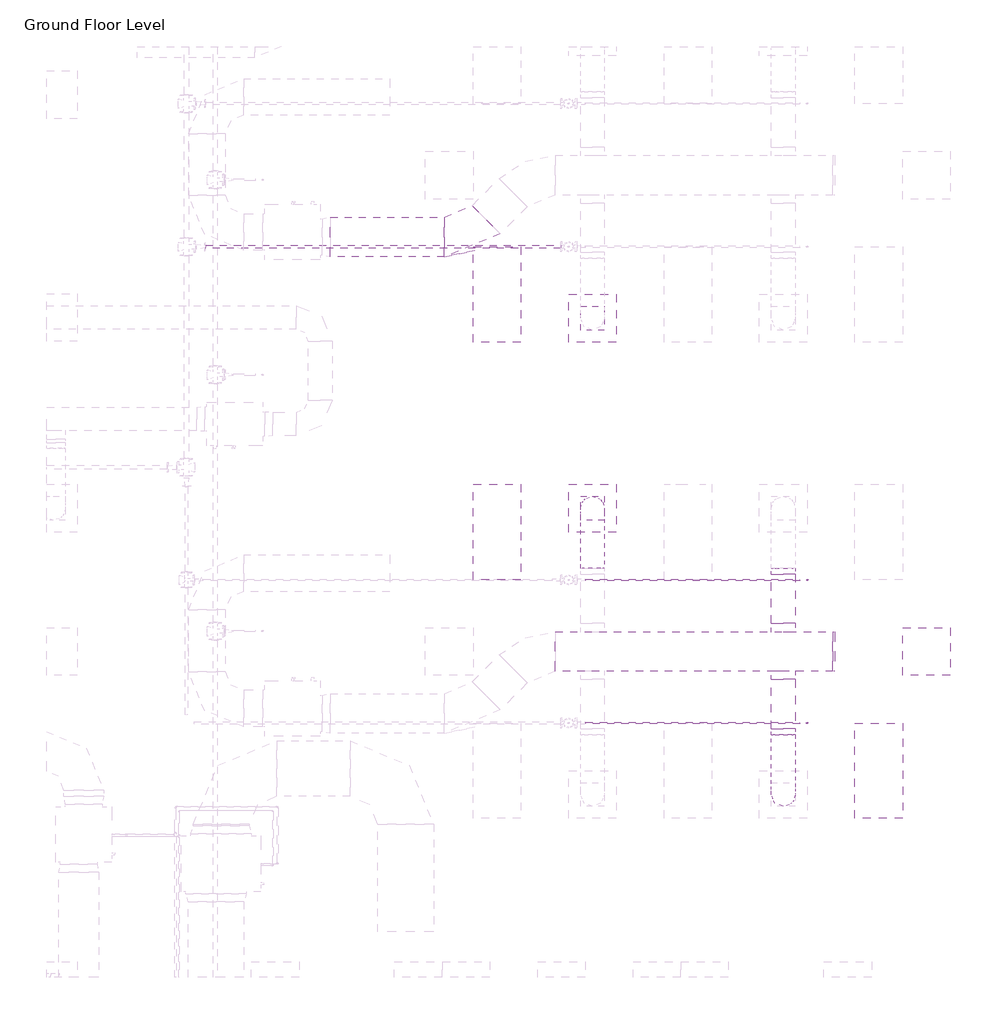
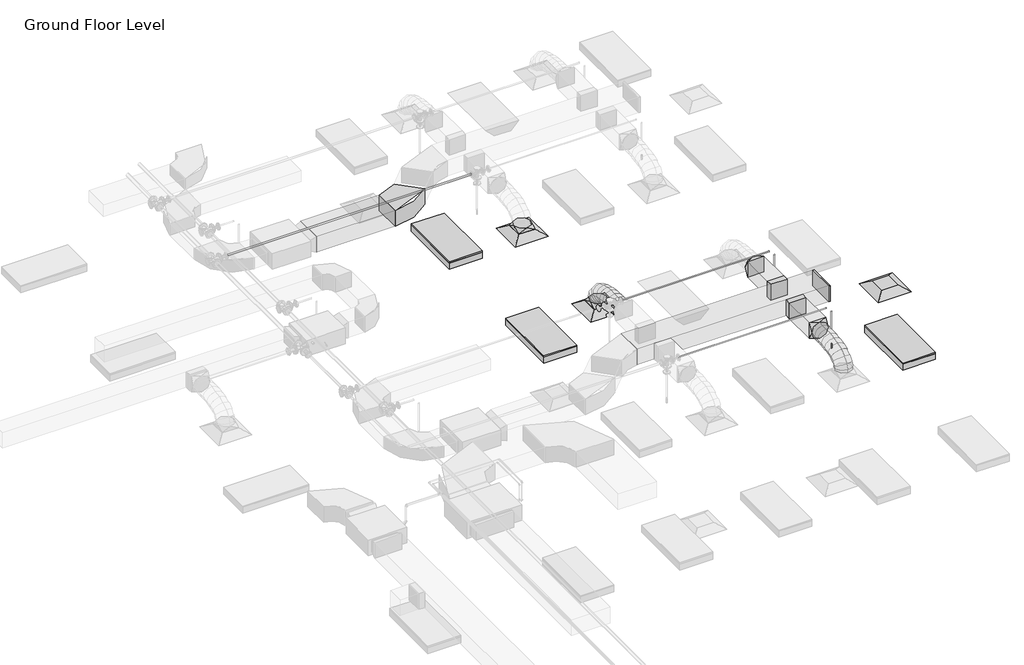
# One storey, part 36 of 66: 8 duct fittings, 6 duct segments, 5 pipe segments, 3 air terminals, 3 light fixtures, 2 fire suppression terminals.
"""IFC4 building model written with IfcOpenShell, lengths in millimetres."""

from ifc_helpers import new_model, si_unit, point, frame, frame_2d, origin, place, context, project, spatial, polyline, circle_curve, ellipse_curve, trimmed, segment, composite_curve, outline, extrude, transform, mapped, element, save
from ifc_brep_helpers import plane_surface, cylinder_surface, advanced_brep
from components import m_return_diffuser_600_x_600_face_300_x_300_connection_ff221211, m_rectangular_elbow_radius_1_5_w_acc56c25, m_rectangular_endcap_standard_72d4d00d, m_rectangular_takeoff_standard_cb0ccb98, m_rectangular_takeoff_standard_2be5eba1, m_rectangular_to_round_transition_angle_45_degree_641efff0, m_sprinkler_dry_pendent_hosted_15_mm_dry_pendent_9bda8e11, m_troffer_light_parabolic_rectangular1_0600x1200mm_4_lamp_86473d4a

model = new_model("IFC4")

# Units and contexts
model_context = context("Model", 3, world=origin())
ifc_project = project(units=[si_unit("LENGTHUNIT", "METRE", prefix="MILLI")], contexts=[model_context])

# Site, building, storey
site = spatial("IfcSite", under=ifc_project)
building = spatial("IfcBuilding", under=site)
storey = spatial("IfcBuildingStorey", under=building, Name="Ground Floor Level", Elevation=900.0)

# Air terminals
placement = place(None, origin())
m_return_diffuser_600_x_600_face_300_x_300_connection_shape = m_return_diffuser_600_x_600_face_300_x_300_connection_ff221211(model_context)
element("IfcAirTerminal", 1, ObjectType="M_Return Diffuser : 600 x 600 Face 300 x 300 Connection", at=placement, inside=storey, context=model_context, shape_type="MappedRepresentation", body=[
    mapped(m_return_diffuser_600_x_600_face_300_x_300_connection_shape, transform((14942.7672395, -5264.7846466, 3650.0), x_axis=(1.0, 0.0, 0.0), y_axis=(0.0, 1.0, 0.0), z_axis=(0.0, 0.0, 1.0))),
])
element("IfcAirTerminal", 2, ObjectType="M_Supply Diffuser : 600 x 600 Face 300 x 300 Connection", at=placement, inside=storey, context=model_context, shape_type="MappedRepresentation", body=[
    mapped(m_return_diffuser_600_x_600_face_300_x_300_connection_shape, transform((10742.7672395, -1074.7846466, 3650.0), x_axis=(1.0, 0.0, 0.0), y_axis=(0.0, 1.0, 0.0), z_axis=(0.0, 0.0, 1.0))),
])
element("IfcAirTerminal", 3, ObjectType="M_Supply Diffuser : 600 x 600 Face 300 x 300 Connection", at=placement, inside=storey, context=model_context, shape_type="MappedRepresentation", body=[
    mapped(m_return_diffuser_600_x_600_face_300_x_300_connection_shape, transform((10742.7672395, -3464.7846466, 3650.0), x_axis=(1.0, 0.0, 0.0), y_axis=(0.0, 1.0, 0.0), z_axis=(0.0, 0.0, 1.0))),
])

# Duct fittings
m_rectangular_elbow_radius_1_5_w_shape = m_rectangular_elbow_radius_1_5_w_acc56c25(model_context)
element("IfcDuctFitting", 4, ObjectType="M_Rectangular Elbow - Radius : 1.5 W", at=placement, inside=storey, context=model_context, shape_type="MappedRepresentation", body=[
    mapped(m_rectangular_elbow_radius_1_5_w_shape, transform((9187.6927358, -53.8220473, 4100.0047224), x_axis=(0.9999999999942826, 0.0, -3.3815582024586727e-06), y_axis=(-9.063610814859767e-12, 0.9999999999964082, -2.680306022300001e-06), z_axis=(3.3815582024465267e-06, 2.6803060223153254e-06, 0.9999999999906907))),
])
m_rectangular_endcap_standard_shape = m_rectangular_endcap_standard_72d4d00d(model_context)
element("IfcDuctFitting", 5, ObjectType="M_Rectangular Endcap : Standard", at=placement, inside=storey, context=model_context, shape_type="MappedRepresentation", body=[
    mapped(m_rectangular_endcap_standard_shape, transform((13766.7301365, -5264.7846466, 4100.0), x_axis=(1.0, 0.0, 0.0), y_axis=(0.0, 1.0, 0.0), z_axis=(0.0, 0.0, 1.0))),
])
m_rectangular_takeoff_standard_shape = m_rectangular_takeoff_standard_cb0ccb98(model_context)
element("IfcDuctFitting", 6, ObjectType="M_Rectangular Takeoff : Standard", at=placement, inside=storey, context=model_context, shape_type="MappedRepresentation", body=[
    mapped(m_rectangular_takeoff_standard_shape, transform((13142.7672395, -5014.7846466, 4100.0), x_axis=(0.0, 1.0, 0.0), y_axis=(1.0, 0.0, 0.0), z_axis=(0.0, 0.0, -1.0))),
])
m_rectangular_takeoff_standard_2_shape = m_rectangular_takeoff_standard_2be5eba1(model_context)
element("IfcDuctFitting", 7, ObjectType="M_Rectangular Takeoff : Standard", at=placement, inside=storey, context=model_context, shape_type="MappedRepresentation", body=[
    mapped(m_rectangular_takeoff_standard_2_shape, transform((13142.7672395, -5514.7846466, 4100.0), x_axis=(0.0, -1.0, 0.0), y_axis=(-1.0, 0.0, 0.0), z_axis=(0.0, 0.0, -1.0))),
])
m_rectangular_to_round_transition_angle_45_degree_shape = m_rectangular_to_round_transition_angle_45_degree_641efff0(model_context)
element("IfcDuctFitting", 8, ObjectType="M_Rectangular to Round Transition - Angle : 45 Degree", at=placement, inside=storey, context=model_context, shape_type="MappedRepresentation", body=[
    mapped(m_rectangular_to_round_transition_angle_45_degree_shape, transform((13142.7672395, -6237.4487153, 4100.0), x_axis=(0.0, -1.0, 0.0), y_axis=(1.0, 0.0, 0.0), z_axis=(0.0, 0.0, 1.0))),
])
element("IfcDuctFitting", 9, ObjectType="M_Rectangular to Round Transition - Angle : 45 Degree", at=placement, inside=storey, context=model_context, shape_type="MappedRepresentation", body=[
    mapped(m_rectangular_to_round_transition_angle_45_degree_shape, transform((13142.7672395, -4292.1205779, 4100.0), x_axis=(0.0, 1.0, 0.0), y_axis=(-1.0, 0.0, 0.0), z_axis=(0.0, 0.0, 1.0))),
])
element("IfcDuctFitting", 10, ObjectType="M_Rectangular to Round Transition - Angle : 45 Degree", at=placement, inside=storey, context=model_context, shape_type="MappedRepresentation", body=[
    mapped(m_rectangular_to_round_transition_angle_45_degree_shape, transform((10742.7672395, -3464.7846466, 3751.6), x_axis=(0.0, 0.0, 1.0), y_axis=(-1.0, 0.0, 0.0), z_axis=(0.0, -1.0, 0.0))),
])
element("IfcDuctFitting", 11, ObjectType="M_Rectangular to Round Transition - Angle : 45 Degree", at=placement, inside=storey, context=model_context, shape_type="MappedRepresentation", body=[
    mapped(m_rectangular_to_round_transition_angle_45_degree_shape, transform((10742.7672395, -1074.7846466, 3751.6), x_axis=(0.0, 0.0, 1.0), y_axis=(-1.0, 0.0, 0.0), z_axis=(0.0, -1.0, 0.0))),
])

# Duct segments
element("IfcDuctSegment", 12, ObjectType="Flex - Round", at=placement, inside=storey, context=model_context, shape_type="AdvancedBrep", body=[
    advanced_brep(
    [(13292.7672395, -7064.7846466, 3826.6), (13142.7672395, -7214.7846466, 3826.6), (12992.7672395, -7064.7846466, 3826.6), (13142.7672395, -6914.7846466, 3826.6), (13292.7672395, -7064.7846466, 3857.9377114), (13142.7672395, -7214.7846466, 3883.5809337), (12992.7672395, -7064.7846466, 3857.9377114), (13142.7672395, -6914.7846466, 3832.2944892), (13292.7672395, -7047.7687141, 3906.2505728), (13142.7672395, -7181.506693, 3978.0660967), (12992.7672395, -7047.7687141, 3906.2505728), (13142.7672395, -6914.0307351, 3834.435049), (13292.7672395, -7000.5848337, 3968.7113131), (13142.7672395, -7104.7907329, 4079.6206026), (12992.7672395, -7000.5848337, 3968.7113131), (13142.7672395, -6896.3789345, 3857.8020236), (13292.7672395, -6929.0288815, 4016.0700639), (13142.7672395, -6997.9629372, 4150.3237489), (12992.7672395, -6929.0288815, 4016.0700639), (13142.7672395, -6860.0948259, 3881.8163788), (13292.7672395, -6838.8967335, 4050.4146682), (13142.7672395, -6882.4574967, 4194.3367758), (12992.7672395, -6838.8967335, 4050.4146682), (13142.7672395, -6795.3359704, 3906.4925606), (13292.7672395, -6735.9842657, 4073.8329691), (13142.7672395, -6762.5451897, 4221.6234841), (12992.7672395, -6735.9842657, 4073.8329691), (13142.7672395, -6709.4233417, 3926.0424542), (13292.7672395, -6626.087354, 4088.4128097), (13142.7672395, -6641.2382563, 4237.7170733), (12992.7672395, -6626.087354, 4088.4128097), (13142.7672395, -6610.9364516, 3939.1085462), (13292.7672395, -6515.0018743, 4096.242033), (13142.7672395, -6522.5072025, 4246.085151), (12992.7672395, -6515.0018743, 4096.242033), (13142.7672395, -6507.4965462, 3946.398915), (13292.7672395, -6408.5237028, 4099.4084821), (13142.7672395, -6411.2151959, 4249.394754), (12992.7672395, -6408.5237028, 4099.4084821), (13142.7672395, -6405.8322097, 3949.4222102), (13292.7672395, -6312.4487153, 4100.0), (13142.7672395, -6311.5252075, 3950.0028429), (12992.7672395, -6312.4487153, 4100.0), (13142.7672395, -6313.3722232, 4249.9971571)],
    [
        (0, 1, circle_curve(frame((13142.7672395, -7064.7846466, 3826.6), z_axis=(0.0, 0.0, -1.0), x_axis=(1.0, 0.0, 0.0)), 150.0)),
        (1, 2, circle_curve(frame((13142.7672395, -7064.7846466, 3826.6), z_axis=(0.0, 0.0, -1.0), x_axis=(1.0, 0.0, 0.0)), 150.0)),
        (2, 3, circle_curve(frame((13142.7672395, -7064.7846466, 3826.6), z_axis=(0.0, 0.0, -1.0), x_axis=(1.0, 0.0, 0.0)), 150.0)),
        (3, 0, circle_curve(frame((13142.7672395, -7064.7846466, 3826.6), z_axis=(0.0, 0.0, -1.0), x_axis=(1.0, 0.0, 0.0)), 150.0)),
        (0, 4),
        (4, 5, ellipse_curve(frame((13142.7672395, -7064.7846466, 3857.9377114), z_axis=(0.0, -0.16851014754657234, -0.9856999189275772), x_axis=(0.0, 0.9856999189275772, -0.1685101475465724)), 152.176131, 150.0)),
        (5, 1),
        (5, 6, ellipse_curve(frame((13142.7672395, -7064.7846466, 3857.9377114), z_axis=(0.0, -0.16851014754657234, -0.9856999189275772), x_axis=(0.0, 0.9856999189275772, -0.1685101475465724)), 152.176131, 150.0)),
        (6, 2),
        (6, 7, ellipse_curve(frame((13142.7672395, -7064.7846466, 3857.9377114), z_axis=(0.0, -0.16851014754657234, -0.9856999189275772), x_axis=(0.0, 0.9856999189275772, -0.1685101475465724)), 152.176131, 150.0)),
        (7, 3),
        (7, 4, ellipse_curve(frame((13142.7672395, -7064.7846466, 3857.9377114), z_axis=(0.0, -0.16851014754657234, -0.9856999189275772), x_axis=(0.0, 0.9856999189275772, -0.1685101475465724)), 152.176131, 150.0)),
        (4, 8),
        (8, 9, ellipse_curve(frame((13142.7672395, -7047.7687141, 3906.2505728), z_axis=(0.0, -0.47309225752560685, -0.8810128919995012), x_axis=(0.0, 0.881012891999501, -0.4730922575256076)), 151.8002519, 150.0)),
        (9, 5),
        (9, 10, ellipse_curve(frame((13142.7672395, -7047.7687141, 3906.2505728), z_axis=(0.0, -0.47309225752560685, -0.8810128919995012), x_axis=(0.0, 0.881012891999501, -0.4730922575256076)), 151.8002519, 150.0)),
        (10, 6),
        (10, 11, ellipse_curve(frame((13142.7672395, -7047.7687141, 3906.2505728), z_axis=(0.0, -0.47309225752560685, -0.8810128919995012), x_axis=(0.0, 0.881012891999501, -0.4730922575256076)), 151.8002519, 150.0)),
        (11, 7),
        (11, 8, ellipse_curve(frame((13142.7672395, -7047.7687141, 3906.2505728), z_axis=(0.0, -0.47309225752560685, -0.8810128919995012), x_axis=(0.0, 0.881012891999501, -0.4730922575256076)), 151.8002519, 150.0)),
        (8, 12),
        (12, 13, ellipse_curve(frame((13142.7672395, -7000.5848337, 3968.7113131), z_axis=(0.0, -0.7287877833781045, -0.6847396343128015), x_axis=(0.0, 0.6847396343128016, -0.7287877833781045)), 152.1832446, 150.0)),
        (13, 9),
        (13, 14, ellipse_curve(frame((13142.7672395, -7000.5848337, 3968.7113131), z_axis=(0.0, -0.7287877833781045, -0.6847396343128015), x_axis=(0.0, 0.6847396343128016, -0.7287877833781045)), 152.1832446, 150.0)),
        (14, 10),
        (14, 15, ellipse_curve(frame((13142.7672395, -7000.5848337, 3968.7113131), z_axis=(0.0, -0.7287877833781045, -0.6847396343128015), x_axis=(0.0, 0.6847396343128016, -0.7287877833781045)), 152.1832446, 150.0)),
        (15, 11),
        (15, 12, ellipse_curve(frame((13142.7672395, -7000.5848337, 3968.7113131), z_axis=(0.0, -0.7287877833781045, -0.6847396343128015), x_axis=(0.0, 0.6847396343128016, -0.7287877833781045)), 152.1832446, 150.0)),
        (12, 16),
        (16, 17, ellipse_curve(frame((13142.7672395, -6929.0288815, 4016.0700639), z_axis=(0.0, -0.8895859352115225, -0.4567678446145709), x_axis=(0.0, 0.45676784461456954, -0.8895859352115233)), 150.91705, 150.0)),
        (17, 13),
        (17, 18, ellipse_curve(frame((13142.7672395, -6929.0288815, 4016.0700639), z_axis=(0.0, -0.8895859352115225, -0.4567678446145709), x_axis=(0.0, 0.45676784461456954, -0.8895859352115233)), 150.91705, 150.0)),
        (18, 14),
        (18, 19, ellipse_curve(frame((13142.7672395, -6929.0288815, 4016.0700639), z_axis=(0.0, -0.8895859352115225, -0.4567678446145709), x_axis=(0.0, 0.45676784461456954, -0.8895859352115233)), 150.91705, 150.0)),
        (19, 15),
        (19, 16, ellipse_curve(frame((13142.7672395, -6929.0288815, 4016.0700639), z_axis=(0.0, -0.8895859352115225, -0.4567678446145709), x_axis=(0.0, 0.45676784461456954, -0.8895859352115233)), 150.91705, 150.0)),
        (16, 20),
        (20, 21, ellipse_curve(frame((13142.7672395, -6838.8967335, 4050.4146682), z_axis=(0.0, -0.9571203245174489, -0.2896906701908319), x_axis=(0.0, 0.2896906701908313, -0.9571203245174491)), 150.369921, 150.0)),
        (21, 17),
        (21, 22, ellipse_curve(frame((13142.7672395, -6838.8967335, 4050.4146682), z_axis=(0.0, -0.9571203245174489, -0.2896906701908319), x_axis=(0.0, 0.2896906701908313, -0.9571203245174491)), 150.369921, 150.0)),
        (22, 18),
        (22, 23, ellipse_curve(frame((13142.7672395, -6838.8967335, 4050.4146682), z_axis=(0.0, -0.9571203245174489, -0.2896906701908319), x_axis=(0.0, 0.2896906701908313, -0.9571203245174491)), 150.369921, 150.0)),
        (23, 19),
        (23, 20, ellipse_curve(frame((13142.7672395, -6838.8967335, 4050.4146682), z_axis=(0.0, -0.9571203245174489, -0.2896906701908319), x_axis=(0.0, 0.2896906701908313, -0.9571203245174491)), 150.369921, 150.0)),
        (20, 24),
        (24, 25, ellipse_curve(frame((13142.7672395, -6735.9842657, 4073.8329691), z_axis=(0.0, -0.9842313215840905, -0.17688613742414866), x_axis=(0.0, 0.17688613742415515, -0.9842313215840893)), 150.1583131, 150.0)),
        (25, 21),
        (25, 26, ellipse_curve(frame((13142.7672395, -6735.9842657, 4073.8329691), z_axis=(0.0, -0.9842313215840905, -0.17688613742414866), x_axis=(0.0, 0.17688613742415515, -0.9842313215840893)), 150.1583131, 150.0)),
        (26, 22),
        (26, 27, ellipse_curve(frame((13142.7672395, -6735.9842657, 4073.8329691), z_axis=(0.0, -0.9842313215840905, -0.17688613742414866), x_axis=(0.0, 0.17688613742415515, -0.9842313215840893)), 150.1583131, 150.0)),
        (27, 23),
        (27, 24, ellipse_curve(frame((13142.7672395, -6735.9842657, 4073.8329691), z_axis=(0.0, -0.9842313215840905, -0.17688613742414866), x_axis=(0.0, 0.17688613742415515, -0.9842313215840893)), 150.1583131, 150.0)),
        (24, 28),
        (28, 29, ellipse_curve(frame((13142.7672395, -6626.087354, 4088.4128097), z_axis=(0.0, -0.9948906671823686, -0.10095821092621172), x_axis=(0.0, 0.10095821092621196, -0.9948906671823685)), 150.0710264, 150.0)),
        (29, 25),
        (29, 30, ellipse_curve(frame((13142.7672395, -6626.087354, 4088.4128097), z_axis=(0.0, -0.9948906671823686, -0.10095821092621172), x_axis=(0.0, 0.10095821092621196, -0.9948906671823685)), 150.0710264, 150.0)),
        (30, 26),
        (30, 31, ellipse_curve(frame((13142.7672395, -6626.087354, 4088.4128097), z_axis=(0.0, -0.9948906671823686, -0.10095821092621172), x_axis=(0.0, 0.10095821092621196, -0.9948906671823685)), 150.0710264, 150.0)),
        (31, 27),
        (31, 28, ellipse_curve(frame((13142.7672395, -6626.087354, 4088.4128097), z_axis=(0.0, -0.9948906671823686, -0.10095821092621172), x_axis=(0.0, 0.10095821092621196, -0.9948906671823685)), 150.0710264, 150.0)),
        (28, 32),
        (32, 33, ellipse_curve(frame((13142.7672395, -6515.0018743, 4096.242033), z_axis=(0.0, -0.9987479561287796, -0.050025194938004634), x_axis=(0.0, 0.050025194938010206, -0.9987479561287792)), 150.0309634, 150.0)),
        (33, 29),
        (33, 34, ellipse_curve(frame((13142.7672395, -6515.0018743, 4096.242033), z_axis=(0.0, -0.9987479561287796, -0.050025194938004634), x_axis=(0.0, 0.050025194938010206, -0.9987479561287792)), 150.0309634, 150.0)),
        (34, 30),
        (34, 35, ellipse_curve(frame((13142.7672395, -6515.0018743, 4096.242033), z_axis=(0.0, -0.9987479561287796, -0.050025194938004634), x_axis=(0.0, 0.050025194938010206, -0.9987479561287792)), 150.0309634, 150.0)),
        (35, 31),
        (35, 32, ellipse_curve(frame((13142.7672395, -6515.0018743, 4096.242033), z_axis=(0.0, -0.9987479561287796, -0.050025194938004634), x_axis=(0.0, 0.050025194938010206, -0.9987479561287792)), 150.0309634, 150.0)),
        (32, 36),
        (36, 37, ellipse_curve(frame((13142.7672395, -6408.5237028, 4099.4084821), z_axis=(0.0, -0.9998390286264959, -0.01794204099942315), x_axis=(0.0, 0.01794204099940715, -0.9998390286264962)), 150.0104193, 150.0)),
        (37, 33),
        (37, 38, ellipse_curve(frame((13142.7672395, -6408.5237028, 4099.4084821), z_axis=(0.0, -0.9998390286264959, -0.01794204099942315), x_axis=(0.0, 0.01794204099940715, -0.9998390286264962)), 150.0104193, 150.0)),
        (38, 34),
        (38, 39, ellipse_curve(frame((13142.7672395, -6408.5237028, 4099.4084821), z_axis=(0.0, -0.9998390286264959, -0.01794204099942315), x_axis=(0.0, 0.01794204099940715, -0.9998390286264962)), 150.0104193, 150.0)),
        (39, 35),
        (39, 36, ellipse_curve(frame((13142.7672395, -6408.5237028, 4099.4084821), z_axis=(0.0, -0.9998390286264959, -0.01794204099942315), x_axis=(0.0, 0.01794204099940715, -0.9998390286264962)), 150.0104193, 150.0)),
        (40, 41, circle_curve(frame((13142.7672395, -6312.4487153, 4100.0), z_axis=(0.0, 0.9999810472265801, 0.0061567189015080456), x_axis=(1.0, 0.0, 0.0)), 150.0)),
        (41, 42, circle_curve(frame((13142.7672395, -6312.4487153, 4100.0), z_axis=(0.0, 0.9999810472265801, 0.0061567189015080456), x_axis=(1.0, 0.0, 0.0)), 150.0)),
        (42, 43, circle_curve(frame((13142.7672395, -6312.4487153, 4100.0), z_axis=(0.0, 0.9999810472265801, 0.0061567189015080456), x_axis=(1.0, 0.0, 0.0)), 150.0)),
        (43, 40, circle_curve(frame((13142.7672395, -6312.4487153, 4100.0), z_axis=(0.0, 0.9999810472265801, 0.0061567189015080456), x_axis=(1.0, 0.0, 0.0)), 150.0)),
        (36, 40),
        (43, 37),
        (42, 38),
        (41, 39),
    ],
    [
        plane_surface(frame((13142.7672395, -7214.7846466, 3826.6), z_axis=(0.0, 0.0, -1.0), x_axis=(1.0, 0.0, 0.0))),
        cylinder_surface(frame((13142.7672395, -7064.7846466, 3826.6), z_axis=(0.0, 0.0, -1.0), x_axis=(1.0, 0.0, 0.0)), 150.0),
        cylinder_surface(frame((13142.7672395, -7064.7846466, 3857.9377114), z_axis=(0.0, -0.3322008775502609, -0.9432086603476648), x_axis=(1.0, 0.0, 0.0)), 150.0),
        cylinder_surface(frame((13142.7672395, -7047.7687141, 3906.2505728), z_axis=(0.0, -0.602762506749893, -0.7979206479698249), x_axis=(1.0, 0.0, 0.0)), 150.0),
        cylinder_surface(frame((13142.7672395, -7000.5848337, 3968.7113131), z_axis=(0.0, -0.833902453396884, -0.5519118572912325), x_axis=(1.0, 0.0, 0.0)), 150.0),
        cylinder_surface(frame((13142.7672395, -6929.0288815, 4016.0700639), z_axis=(0.0, -0.934458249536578, -0.35607271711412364), x_axis=(1.0, 0.0, 0.0)), 150.0),
        cylinder_surface(frame((13142.7672395, -6838.8967335, 4050.4146682), z_axis=(0.0, -0.9750732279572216, -0.22188330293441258), x_axis=(1.0, 0.0, 0.0)), 150.0),
        cylinder_surface(frame((13142.7672395, -6735.9842657, 4073.8329691), z_axis=(0.0, -0.9913140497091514, -0.1315159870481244), x_axis=(1.0, 0.0, 0.0)), 150.0),
        cylinder_surface(frame((13142.7672395, -6626.087354, 4088.4128097), z_axis=(0.0, -0.9975255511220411, -0.07030487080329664), x_axis=(1.0, 0.0, 0.0)), 150.0),
        cylinder_surface(frame((13142.7672395, -6515.0018743, 4096.242033), z_axis=(0.0, -0.9995581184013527, -0.029724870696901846), x_axis=(1.0, 0.0, 0.0)), 150.0),
        plane_surface(frame((13142.7672395, -6313.3722232, 4249.9971571), z_axis=(0.0, 0.9999810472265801, 0.0061567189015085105), x_axis=(1.0, 0.0, 0.0))),
        cylinder_surface(frame((13142.7672395, -6408.5237028, 4099.4084821), z_axis=(0.0, -0.9999810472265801, -0.0061567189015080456), x_axis=(1.0, 0.0, 0.0)), 150.0),
    ],
    [
        (0, [[1, 2, 3, 4]]),
        (1, [[-1, 5, 6, 7]]),
        (1, [[-2, -7, 8, 9]]),
        (1, [[-3, -9, 10, 11]]),
        (1, [[-4, -11, 12, -5]]),
        (2, [[-6, 13, 14, 15]]),
        (2, [[-8, -15, 16, 17]]),
        (2, [[-10, -17, 18, 19]]),
        (2, [[-12, -19, 20, -13]]),
        (3, [[-14, 21, 22, 23]]),
        (3, [[-16, -23, 24, 25]]),
        (3, [[-18, -25, 26, 27]]),
        (3, [[-20, -27, 28, -21]]),
        (4, [[-22, 29, 30, 31]]),
        (4, [[-24, -31, 32, 33]]),
        (4, [[-26, -33, 34, 35]]),
        (4, [[-28, -35, 36, -29]]),
        (5, [[-30, 37, 38, 39]]),
        (5, [[-32, -39, 40, 41]]),
        (5, [[-34, -41, 42, 43]]),
        (5, [[-36, -43, 44, -37]]),
        (6, [[-38, 45, 46, 47]]),
        (6, [[-40, -47, 48, 49]]),
        (6, [[-42, -49, 50, 51]]),
        (6, [[-44, -51, 52, -45]]),
        (7, [[-46, 53, 54, 55]]),
        (7, [[-48, -55, 56, 57]]),
        (7, [[-50, -57, 58, 59]]),
        (7, [[-52, -59, 60, -53]]),
        (8, [[-54, 61, 62, 63]]),
        (8, [[-56, -63, 64, 65]]),
        (8, [[-58, -65, 66, 67]]),
        (8, [[-60, -67, 68, -61]]),
        (9, [[-62, 69, 70, 71]]),
        (9, [[-64, -71, 72, 73]]),
        (9, [[-66, -73, 74, 75]]),
        (9, [[-68, -75, 76, -69]]),
        (10, [[77, 78, 79, 80]]),
        (11, [[-70, 81, -80, 82]]),
        (11, [[-72, -82, -79, 83]]),
        (11, [[-74, -83, -78, 84]]),
        (11, [[-76, -84, -77, -81]]),
    ],
),
])
element("IfcDuctSegment", 13, ObjectType="Flex - Round", at=placement, inside=storey, context=model_context, shape_type="AdvancedBrep", body=[
    advanced_brep(
    [(10892.7672395, -3464.7846466, 3826.6), (10742.7672395, -3614.7846466, 3826.6), (10592.7672395, -3464.7846466, 3826.6), (10742.7672395, -3314.7846466, 3826.6), (10892.7672395, -3464.7846466, 3857.9377114), (10742.7672395, -3614.7846466, 3832.2944892), (10592.7672395, -3464.7846466, 3857.9377114), (10742.7672395, -3314.7846466, 3883.5809337), (10892.7672395, -3481.8005792, 3906.2505728), (10742.7672395, -3615.5385581, 3834.435049), (10592.7672395, -3481.8005792, 3906.2505728), (10742.7672395, -3348.0626002, 3978.0660967), (10892.7672395, -3528.9844595, 3968.7113131), (10742.7672395, -3633.1903588, 3857.8020236), (10592.7672395, -3528.9844595, 3968.7113131), (10742.7672395, -3424.7785603, 4079.6206026), (10892.7672395, -3600.5404117, 4016.0700639), (10742.7672395, -3669.4744673, 3881.8163788), (10592.7672395, -3600.5404117, 4016.0700639), (10742.7672395, -3531.606356, 4150.3237489), (10892.7672395, -3690.6725597, 4050.4146682), (10742.7672395, -3734.2333228, 3906.4925606), (10592.7672395, -3690.6725597, 4050.4146682), (10742.7672395, -3647.1117965, 4194.3367758), (10892.7672395, -3793.5850275, 4073.8329691), (10742.7672395, -3820.1459515, 3926.0424542), (10592.7672395, -3793.5850275, 4073.8329691), (10742.7672395, -3767.0241035, 4221.6234841), (10892.7672395, -3903.4819392, 4088.4128097), (10742.7672395, -3918.6328416, 3939.1085462), (10592.7672395, -3903.4819392, 4088.4128097), (10742.7672395, -3888.3310369, 4237.7170733), (10892.7672395, -4014.5674189, 4096.242033), (10742.7672395, -4022.0727471, 3946.398915), (10592.7672395, -4014.5674189, 4096.242033), (10742.7672395, -4007.0620907, 4246.085151), (10892.7672395, -4121.0455904, 4099.4084821), (10742.7672395, -4123.7370835, 3949.4222102), (10592.7672395, -4121.0455904, 4099.4084821), (10742.7672395, -4118.3540973, 4249.394754), (10892.7672395, -4217.1205779, 4100.0), (10742.7672395, -4216.1970701, 4249.9971571), (10592.7672395, -4217.1205779, 4100.0), (10742.7672395, -4218.0440857, 3950.0028429)],
    [
        (0, 1, circle_curve(frame((10742.7672395, -3464.7846466, 3826.6), z_axis=(0.0, 0.0, -1.0), x_axis=(1.0, 0.0, 0.0)), 150.0)),
        (1, 2, circle_curve(frame((10742.7672395, -3464.7846466, 3826.6), z_axis=(0.0, 0.0, -1.0), x_axis=(1.0, 0.0, 0.0)), 150.0)),
        (2, 3, circle_curve(frame((10742.7672395, -3464.7846466, 3826.6), z_axis=(0.0, 0.0, -1.0), x_axis=(1.0, 0.0, 0.0)), 150.0)),
        (3, 0, circle_curve(frame((10742.7672395, -3464.7846466, 3826.6), z_axis=(0.0, 0.0, -1.0), x_axis=(1.0, 0.0, 0.0)), 150.0)),
        (0, 4),
        (4, 5, ellipse_curve(frame((10742.7672395, -3464.7846466, 3857.9377114), z_axis=(0.0, 0.16851014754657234, -0.9856999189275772), x_axis=(0.0, -0.9856999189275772, -0.1685101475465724)), 152.176131, 150.0)),
        (5, 1),
        (5, 6, ellipse_curve(frame((10742.7672395, -3464.7846466, 3857.9377114), z_axis=(0.0, 0.16851014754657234, -0.9856999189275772), x_axis=(0.0, -0.9856999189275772, -0.1685101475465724)), 152.176131, 150.0)),
        (6, 2),
        (6, 7, ellipse_curve(frame((10742.7672395, -3464.7846466, 3857.9377114), z_axis=(0.0, 0.16851014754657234, -0.9856999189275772), x_axis=(0.0, -0.9856999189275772, -0.1685101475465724)), 152.176131, 150.0)),
        (7, 3),
        (7, 4, ellipse_curve(frame((10742.7672395, -3464.7846466, 3857.9377114), z_axis=(0.0, 0.16851014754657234, -0.9856999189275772), x_axis=(0.0, -0.9856999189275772, -0.1685101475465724)), 152.176131, 150.0)),
        (4, 8),
        (8, 9, ellipse_curve(frame((10742.7672395, -3481.8005792, 3906.2505728), z_axis=(0.0, 0.47309225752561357, -0.8810128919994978), x_axis=(0.0, -0.8810128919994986, -0.47309225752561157)), 151.8002519, 150.0)),
        (9, 5),
        (9, 10, ellipse_curve(frame((10742.7672395, -3481.8005792, 3906.2505728), z_axis=(0.0, 0.47309225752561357, -0.8810128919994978), x_axis=(0.0, -0.8810128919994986, -0.47309225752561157)), 151.8002519, 150.0)),
        (10, 6),
        (10, 11, ellipse_curve(frame((10742.7672395, -3481.8005792, 3906.2505728), z_axis=(0.0, 0.47309225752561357, -0.8810128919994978), x_axis=(0.0, -0.8810128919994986, -0.47309225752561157)), 151.8002519, 150.0)),
        (11, 7),
        (11, 8, ellipse_curve(frame((10742.7672395, -3481.8005792, 3906.2505728), z_axis=(0.0, 0.47309225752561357, -0.8810128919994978), x_axis=(0.0, -0.8810128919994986, -0.47309225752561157)), 151.8002519, 150.0)),
        (8, 12),
        (12, 13, ellipse_curve(frame((10742.7672395, -3528.9844595, 3968.7113131), z_axis=(0.0, 0.7287877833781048, -0.6847396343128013), x_axis=(0.0, -0.6847396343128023, -0.7287877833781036)), 152.1832446, 150.0)),
        (13, 9),
        (13, 14, ellipse_curve(frame((10742.7672395, -3528.9844595, 3968.7113131), z_axis=(0.0, 0.7287877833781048, -0.6847396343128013), x_axis=(0.0, -0.6847396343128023, -0.7287877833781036)), 152.1832446, 150.0)),
        (14, 10),
        (14, 15, ellipse_curve(frame((10742.7672395, -3528.9844595, 3968.7113131), z_axis=(0.0, 0.7287877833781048, -0.6847396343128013), x_axis=(0.0, -0.6847396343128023, -0.7287877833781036)), 152.1832446, 150.0)),
        (15, 11),
        (15, 12, ellipse_curve(frame((10742.7672395, -3528.9844595, 3968.7113131), z_axis=(0.0, 0.7287877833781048, -0.6847396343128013), x_axis=(0.0, -0.6847396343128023, -0.7287877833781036)), 152.1832446, 150.0)),
        (12, 16),
        (16, 17, ellipse_curve(frame((10742.7672395, -3600.5404117, 4016.0700639), z_axis=(0.0, 0.8895859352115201, -0.45676784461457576), x_axis=(0.0, -0.45676784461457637, -0.8895859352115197)), 150.91705, 150.0)),
        (17, 13),
        (17, 18, ellipse_curve(frame((10742.7672395, -3600.5404117, 4016.0700639), z_axis=(0.0, 0.8895859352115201, -0.45676784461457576), x_axis=(0.0, -0.45676784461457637, -0.8895859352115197)), 150.91705, 150.0)),
        (18, 14),
        (18, 19, ellipse_curve(frame((10742.7672395, -3600.5404117, 4016.0700639), z_axis=(0.0, 0.8895859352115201, -0.45676784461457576), x_axis=(0.0, -0.45676784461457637, -0.8895859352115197)), 150.91705, 150.0)),
        (19, 15),
        (19, 16, ellipse_curve(frame((10742.7672395, -3600.5404117, 4016.0700639), z_axis=(0.0, 0.8895859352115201, -0.45676784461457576), x_axis=(0.0, -0.45676784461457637, -0.8895859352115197)), 150.91705, 150.0)),
        (16, 20),
        (20, 21, ellipse_curve(frame((10742.7672395, -3690.6725597, 4050.4146682), z_axis=(0.0, 0.9571203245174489, -0.2896906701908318), x_axis=(0.0, -0.28969067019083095, -0.9571203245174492)), 150.369921, 150.0)),
        (21, 17),
        (21, 22, ellipse_curve(frame((10742.7672395, -3690.6725597, 4050.4146682), z_axis=(0.0, 0.9571203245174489, -0.2896906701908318), x_axis=(0.0, -0.28969067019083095, -0.9571203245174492)), 150.369921, 150.0)),
        (22, 18),
        (22, 23, ellipse_curve(frame((10742.7672395, -3690.6725597, 4050.4146682), z_axis=(0.0, 0.9571203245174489, -0.2896906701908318), x_axis=(0.0, -0.28969067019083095, -0.9571203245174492)), 150.369921, 150.0)),
        (23, 19),
        (23, 20, ellipse_curve(frame((10742.7672395, -3690.6725597, 4050.4146682), z_axis=(0.0, 0.9571203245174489, -0.2896906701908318), x_axis=(0.0, -0.28969067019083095, -0.9571203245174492)), 150.369921, 150.0)),
        (20, 24),
        (24, 25, ellipse_curve(frame((10742.7672395, -3793.5850275, 4073.8329691), z_axis=(0.0, 0.9842313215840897, -0.17688613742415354), x_axis=(0.0, -0.1768861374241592, -0.9842313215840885)), 150.1583131, 150.0)),
        (25, 21),
        (25, 26, ellipse_curve(frame((10742.7672395, -3793.5850275, 4073.8329691), z_axis=(0.0, 0.9842313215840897, -0.17688613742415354), x_axis=(0.0, -0.1768861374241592, -0.9842313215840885)), 150.1583131, 150.0)),
        (26, 22),
        (26, 27, ellipse_curve(frame((10742.7672395, -3793.5850275, 4073.8329691), z_axis=(0.0, 0.9842313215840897, -0.17688613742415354), x_axis=(0.0, -0.1768861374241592, -0.9842313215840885)), 150.1583131, 150.0)),
        (27, 23),
        (27, 24, ellipse_curve(frame((10742.7672395, -3793.5850275, 4073.8329691), z_axis=(0.0, 0.9842313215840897, -0.17688613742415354), x_axis=(0.0, -0.1768861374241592, -0.9842313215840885)), 150.1583131, 150.0)),
        (24, 28),
        (28, 29, ellipse_curve(frame((10742.7672395, -3903.4819392, 4088.4128097), z_axis=(0.0, 0.9948906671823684, -0.10095821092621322), x_axis=(0.0, -0.10095821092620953, -0.9948906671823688)), 150.0710264, 150.0)),
        (29, 25),
        (29, 30, ellipse_curve(frame((10742.7672395, -3903.4819392, 4088.4128097), z_axis=(0.0, 0.9948906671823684, -0.10095821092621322), x_axis=(0.0, -0.10095821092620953, -0.9948906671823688)), 150.0710264, 150.0)),
        (30, 26),
        (30, 31, ellipse_curve(frame((10742.7672395, -3903.4819392, 4088.4128097), z_axis=(0.0, 0.9948906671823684, -0.10095821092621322), x_axis=(0.0, -0.10095821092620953, -0.9948906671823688)), 150.0710264, 150.0)),
        (31, 27),
        (31, 28, ellipse_curve(frame((10742.7672395, -3903.4819392, 4088.4128097), z_axis=(0.0, 0.9948906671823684, -0.10095821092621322), x_axis=(0.0, -0.10095821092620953, -0.9948906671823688)), 150.0710264, 150.0)),
        (28, 32),
        (32, 33, ellipse_curve(frame((10742.7672395, -4014.5674189, 4096.242033), z_axis=(0.0, 0.9987479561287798, -0.050025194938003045), x_axis=(0.0, -0.05002519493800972, -0.9987479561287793)), 150.0309634, 150.0)),
        (33, 29),
        (33, 34, ellipse_curve(frame((10742.7672395, -4014.5674189, 4096.242033), z_axis=(0.0, 0.9987479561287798, -0.050025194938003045), x_axis=(0.0, -0.05002519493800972, -0.9987479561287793)), 150.0309634, 150.0)),
        (34, 30),
        (34, 35, ellipse_curve(frame((10742.7672395, -4014.5674189, 4096.242033), z_axis=(0.0, 0.9987479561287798, -0.050025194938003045), x_axis=(0.0, -0.05002519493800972, -0.9987479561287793)), 150.0309634, 150.0)),
        (35, 31),
        (35, 32, ellipse_curve(frame((10742.7672395, -4014.5674189, 4096.242033), z_axis=(0.0, 0.9987479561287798, -0.050025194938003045), x_axis=(0.0, -0.05002519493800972, -0.9987479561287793)), 150.0309634, 150.0)),
        (32, 36),
        (36, 37, ellipse_curve(frame((10742.7672395, -4121.0455904, 4099.4084821), z_axis=(0.0, 0.9998390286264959, -0.017942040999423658), x_axis=(0.0, -0.017942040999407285, -0.9998390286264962)), 150.0104193, 150.0)),
        (37, 33),
        (37, 38, ellipse_curve(frame((10742.7672395, -4121.0455904, 4099.4084821), z_axis=(0.0, 0.9998390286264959, -0.017942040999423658), x_axis=(0.0, -0.017942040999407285, -0.9998390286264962)), 150.0104193, 150.0)),
        (38, 34),
        (38, 39, ellipse_curve(frame((10742.7672395, -4121.0455904, 4099.4084821), z_axis=(0.0, 0.9998390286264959, -0.017942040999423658), x_axis=(0.0, -0.017942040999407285, -0.9998390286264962)), 150.0104193, 150.0)),
        (39, 35),
        (39, 36, ellipse_curve(frame((10742.7672395, -4121.0455904, 4099.4084821), z_axis=(0.0, 0.9998390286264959, -0.017942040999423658), x_axis=(0.0, -0.017942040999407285, -0.9998390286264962)), 150.0104193, 150.0)),
        (40, 41, circle_curve(frame((10742.7672395, -4217.1205779, 4100.0), z_axis=(0.0, -0.9999810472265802, 0.006156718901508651), x_axis=(1.0, 0.0, 0.0)), 150.0)),
        (41, 42, circle_curve(frame((10742.7672395, -4217.1205779, 4100.0), z_axis=(0.0, -0.9999810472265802, 0.006156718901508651), x_axis=(1.0, 0.0, 0.0)), 150.0)),
        (42, 43, circle_curve(frame((10742.7672395, -4217.1205779, 4100.0), z_axis=(0.0, -0.9999810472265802, 0.006156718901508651), x_axis=(1.0, 0.0, 0.0)), 150.0)),
        (43, 40, circle_curve(frame((10742.7672395, -4217.1205779, 4100.0), z_axis=(0.0, -0.9999810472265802, 0.006156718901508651), x_axis=(1.0, 0.0, 0.0)), 150.0)),
        (36, 40),
        (43, 37),
        (42, 38),
        (41, 39),
    ],
    [
        plane_surface(frame((10742.7672395, -3614.7846466, 3826.6), z_axis=(0.0, 0.0, -1.0), x_axis=(1.0, 0.0, 0.0))),
        cylinder_surface(frame((10742.7672395, -3464.7846466, 3826.6), z_axis=(0.0, 0.0, -1.0), x_axis=(1.0, 0.0, 0.0)), 150.0),
        cylinder_surface(frame((10742.7672395, -3464.7846466, 3857.9377114), z_axis=(0.0, 0.3322008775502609, -0.9432086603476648), x_axis=(1.0, 0.0, 0.0)), 150.0),
        cylinder_surface(frame((10742.7672395, -3481.8005792, 3906.2505728), z_axis=(0.0, 0.6027625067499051, -0.7979206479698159), x_axis=(1.0, 0.0, 0.0)), 150.0),
        cylinder_surface(frame((10742.7672395, -3528.9844595, 3968.7113131), z_axis=(0.0, 0.833902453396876, -0.5519118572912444), x_axis=(1.0, 0.0, 0.0)), 150.0),
        cylinder_surface(frame((10742.7672395, -3600.5404117, 4016.0700639), z_axis=(0.0, 0.9344582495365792, -0.35607271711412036), x_axis=(1.0, 0.0, 0.0)), 150.0),
        cylinder_surface(frame((10742.7672395, -3690.6725597, 4050.4146682), z_axis=(0.0, 0.9750732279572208, -0.22188330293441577), x_axis=(1.0, 0.0, 0.0)), 150.0),
        cylinder_surface(frame((10742.7672395, -3793.5850275, 4073.8329691), z_axis=(0.0, 0.9913140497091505, -0.131515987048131), x_axis=(1.0, 0.0, 0.0)), 150.0),
        cylinder_surface(frame((10742.7672395, -3903.4819392, 4088.4128097), z_axis=(0.0, 0.9975255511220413, -0.07030487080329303), x_axis=(1.0, 0.0, 0.0)), 150.0),
        cylinder_surface(frame((10742.7672395, -4014.5674189, 4096.242033), z_axis=(0.0, 0.9995581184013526, -0.02972487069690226), x_axis=(1.0, 0.0, 0.0)), 150.0),
        plane_surface(frame((10742.7672395, -4218.0440857, 3950.0028429), z_axis=(0.0, -0.9999810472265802, 0.006156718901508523), x_axis=(1.0, 0.0, 0.0))),
        cylinder_surface(frame((10742.7672395, -4121.0455904, 4099.4084821), z_axis=(0.0, 0.9999810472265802, -0.006156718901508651), x_axis=(1.0, 0.0, 0.0)), 150.0),
    ],
    [
        (0, [[1, 2, 3, 4]]),
        (1, [[-1, 5, 6, 7]]),
        (1, [[-2, -7, 8, 9]]),
        (1, [[-3, -9, 10, 11]]),
        (1, [[-4, -11, 12, -5]]),
        (2, [[-6, 13, 14, 15]]),
        (2, [[-8, -15, 16, 17]]),
        (2, [[-10, -17, 18, 19]]),
        (2, [[-12, -19, 20, -13]]),
        (3, [[-14, 21, 22, 23]]),
        (3, [[-16, -23, 24, 25]]),
        (3, [[-18, -25, 26, 27]]),
        (3, [[-20, -27, 28, -21]]),
        (4, [[-22, 29, 30, 31]]),
        (4, [[-24, -31, 32, 33]]),
        (4, [[-26, -33, 34, 35]]),
        (4, [[-28, -35, 36, -29]]),
        (5, [[-30, 37, 38, 39]]),
        (5, [[-32, -39, 40, 41]]),
        (5, [[-34, -41, 42, 43]]),
        (5, [[-36, -43, 44, -37]]),
        (6, [[-38, 45, 46, 47]]),
        (6, [[-40, -47, 48, 49]]),
        (6, [[-42, -49, 50, 51]]),
        (6, [[-44, -51, 52, -45]]),
        (7, [[-46, 53, 54, 55]]),
        (7, [[-48, -55, 56, 57]]),
        (7, [[-50, -57, 58, 59]]),
        (7, [[-52, -59, 60, -53]]),
        (8, [[-54, 61, 62, 63]]),
        (8, [[-56, -63, 64, 65]]),
        (8, [[-58, -65, 66, 67]]),
        (8, [[-60, -67, 68, -61]]),
        (9, [[-62, 69, 70, 71]]),
        (9, [[-64, -71, 72, 73]]),
        (9, [[-66, -73, 74, 75]]),
        (9, [[-68, -75, 76, -69]]),
        (10, [[77, 78, 79, 80]]),
        (11, [[-70, 81, -80, 82]]),
        (11, [[-72, -82, -79, 83]]),
        (11, [[-74, -83, -78, 84]]),
        (11, [[-76, -84, -77, -81]]),
    ],
),
])
element("IfcDuctSegment", 14, ObjectType="Radius Elbows / Taps", at=placement, inside=storey, context=model_context, shape_type="SweptSolid", body=[
    extrude(outline(polyline([(7447.693178, -303.8220473), (7447.693178, 196.1779527), (8877.032564, 196.1779527), (8877.032564, -303.8220473), (7447.693178, -303.8220473)])), frame((0.0, 0.0, 3950.0057729), z_axis=(0.0, 0.0, 1.0), x_axis=(1.0, 0.0, 0.0)), (0.0, 0.0, 1.0), 300.0),
])
element("IfcDuctSegment", 15, ObjectType="Radius Elbows / Taps", at=placement, inside=storey, context=model_context, shape_type="SweptSolid", body=[
    extrude(outline(polyline([(10277.3903083, -5514.7846466), (10277.3903083, -5014.7846466), (13766.7301365, -5014.7846466), (13766.7301365, -5514.7846466), (10277.3903083, -5514.7846466)])), frame((0.0, 0.0, 3950.0), z_axis=(0.0, 0.0, 1.0), x_axis=(1.0, 0.0, 0.0)), (0.0, 0.0, 1.0), 300.0),
])
element("IfcDuctSegment", 16, ObjectType="Radius Elbows / Taps", at=placement, inside=storey, context=model_context, shape_type="SweptSolid", body=[
    extrude(outline(polyline([(13292.7672395, -4913.1846466), (12992.7672395, -4913.1846466), (12992.7672395, -4292.1205779), (13292.7672395, -4292.1205779), (13292.7672395, -4913.1846466)])), frame((0.0, 0.0, 3950.0), z_axis=(0.0, 0.0, 1.0), x_axis=(1.0, 0.0, 0.0)), (0.0, 0.0, 1.0), 300.0),
])
element("IfcDuctSegment", 17, ObjectType="Radius Elbows / Taps", at=placement, inside=storey, context=model_context, shape_type="SweptSolid", body=[
    extrude(outline(polyline([(12992.7672395, -5616.3846466), (13292.7672395, -5616.3846466), (13292.7672395, -6237.4487153), (12992.7672395, -6237.4487153), (12992.7672395, -5616.3846466)])), frame((0.0, 0.0, 3950.0), z_axis=(0.0, 0.0, 1.0), x_axis=(1.0, 0.0, 0.0)), (0.0, 0.0, 1.0), 300.0),
])

# Fire suppression terminals
m_sprinkler_dry_pendent_hosted_15_mm_dry_pendent_shape = m_sprinkler_dry_pendent_hosted_15_mm_dry_pendent_9bda8e11(model_context)
element("IfcFireSuppressionTerminal", 18, ObjectType="M_Sprinkler - Dry - Pendent - Hosted : 15 mm Dry Pendent", at=placement, inside=storey, context=model_context, shape_type="MappedRepresentation", body=[
    mapped(m_sprinkler_dry_pendent_hosted_15_mm_dry_pendent_shape, transform((13442.7672395, -4364.7846466, 3650.0), x_axis=(1.0, 0.0, 0.0), y_axis=(0.0, -1.0, 0.0), z_axis=(0.0, 0.0, -1.0))),
])
element("IfcFireSuppressionTerminal", 19, ObjectType="M_Sprinkler - Dry - Pendent - Hosted : 15 mm Dry Pendent", at=placement, inside=storey, context=model_context, shape_type="MappedRepresentation", body=[
    mapped(m_sprinkler_dry_pendent_hosted_15_mm_dry_pendent_shape, transform((13442.7672395, -6164.7846466, 3650.0), x_axis=(1.0, 0.0, 0.0), y_axis=(0.0, -1.0, 0.0), z_axis=(0.0, 0.0, -1.0))),
])

# Light fixtures
m_troffer_light_parabolic_rectangular1_0600x1200mm_4_lamp_shape = m_troffer_light_parabolic_rectangular1_0600x1200mm_4_lamp_86473d4a(model_context)
element("IfcLightFixture", 20, ObjectType="M_Troffer Light - Parabolic Rectangular1 : 0600x1200mm(4 Lamp) - 277V 2", at=placement, inside=storey, context=model_context, shape_type="MappedRepresentation", body=[
    mapped(m_troffer_light_parabolic_rectangular1_0600x1200mm_4_lamp_shape, transform((9483.3013074, -756.081145, 3650.0), x_axis=(0.0, 1.0, 0.0), y_axis=(-1.0, 0.0, 0.0), z_axis=(0.0, 0.0, 1.0))),
])
element("IfcLightFixture", 21, ObjectType="M_Troffer Light - Parabolic Rectangular1 : 0600x1200mm(4 Lamp) - 277V 2", at=placement, inside=storey, context=model_context, shape_type="MappedRepresentation", body=[
    mapped(m_troffer_light_parabolic_rectangular1_0600x1200mm_4_lamp_shape, transform((9483.3013074, -3746.081145, 3650.0), x_axis=(0.0, 1.0, 0.0), y_axis=(-1.0, 0.0, 0.0), z_axis=(0.0, 0.0, 1.0))),
])
element("IfcLightFixture", 22, ObjectType="M_Troffer Light - Parabolic Rectangular1 : 0600x1200mm(4 Lamp) - 277V 2", at=placement, inside=storey, context=model_context, shape_type="MappedRepresentation", body=[
    mapped(m_troffer_light_parabolic_rectangular1_0600x1200mm_4_lamp_shape, transform((14283.3013074, -6746.081145, 3650.0), x_axis=(0.0, 1.0, 0.0), y_axis=(-1.0, 0.0, 0.0), z_axis=(0.0, 0.0, 1.0))),
])

# Pipe segments
element("IfcPipeSegment", 23, ObjectType="Steel flanged", at=placement, inside=storey, context=model_context, shape_type="SweptSolid", body=[
    extrude(outline(composite_curve([segment(trimmed(circle_curve(frame_2d((13442.7672395, -4364.7846466)), 10.668), [point((13432.0992395, -4364.7846466))], [point((13442.7672395, -4354.1166466))], False, "CARTESIAN"), True, "CONTINUOUS"), segment(trimmed(circle_curve(frame_2d((13442.7672395, -4364.7846466)), 10.668), [point((13442.7672395, -4354.1166466))], [point((13453.4352395, -4364.7846466))], False, "CARTESIAN"), True, "CONTINUOUS"), segment(trimmed(circle_curve(frame_2d((13442.7672395, -4364.7846466)), 10.668), [point((13453.4352395, -4364.7846466))], [point((13442.7672395, -4375.4526466))], False, "CARTESIAN"), True, "CONTINUOUS"), segment(trimmed(circle_curve(frame_2d((13442.7672395, -4364.7846466)), 10.668), [point((13442.7672395, -4375.4526466))], [point((13432.0992395, -4364.7846466))], False, "CARTESIAN"), True, "CONTINUOUS")], self_intersect=False)), frame((0.0, 0.0, 3650.0), z_axis=(0.0, 0.0, 1.0), x_axis=(1.0, 0.0, 0.0)), (0.0, 0.0, 1.0), 616.9914062),
])
element("IfcPipeSegment", 24, ObjectType="Steel flanged", at=placement, inside=storey, context=model_context, shape_type="SweptSolid", body=[
    extrude(outline(composite_curve([segment(trimmed(circle_curve(frame_2d((13442.7672395, -6164.7846466)), 10.668), [point((13432.0992395, -6164.7846466))], [point((13442.7672395, -6154.1166466))], False, "CARTESIAN"), True, "CONTINUOUS"), segment(trimmed(circle_curve(frame_2d((13442.7672395, -6164.7846466)), 10.668), [point((13442.7672395, -6154.1166466))], [point((13453.4352395, -6164.7846466))], False, "CARTESIAN"), True, "CONTINUOUS"), segment(trimmed(circle_curve(frame_2d((13442.7672395, -6164.7846466)), 10.668), [point((13453.4352395, -6164.7846466))], [point((13442.7672395, -6175.4526466))], False, "CARTESIAN"), True, "CONTINUOUS"), segment(trimmed(circle_curve(frame_2d((13442.7672395, -6164.7846466)), 10.668), [point((13442.7672395, -6175.4526466))], [point((13432.0992395, -6164.7846466))], False, "CARTESIAN"), True, "CONTINUOUS")], self_intersect=False)), frame((0.0, 0.0, 3650.0), z_axis=(0.0, 0.0, 1.0), x_axis=(1.0, 0.0, 0.0)), (0.0, 0.0, 1.0), 616.9914063),
])
element("IfcPipeSegment", 25, ObjectType="Steel flanged", at=placement, inside=storey, context=model_context, shape_type="SweptSolid", body=[
    extrude(outline(composite_curve([segment(trimmed(circle_curve(frame_2d((-174.7846466, 4360.0)), 16.7005), [point((-158.0841466, 4360.0))], [point((-174.7846466, 4343.2995))], False, "CARTESIAN"), True, "CONTINUOUS"), segment(trimmed(circle_curve(frame_2d((-174.7846466, 4360.0)), 16.7005), [point((-174.7846466, 4343.2995))], [point((-191.4851466, 4360.0))], False, "CARTESIAN"), True, "CONTINUOUS"), segment(trimmed(circle_curve(frame_2d((-174.7846466, 4360.0)), 16.7005), [point((-191.4851466, 4360.0))], [point((-174.7846466, 4376.7005))], False, "CARTESIAN"), True, "CONTINUOUS"), segment(trimmed(circle_curve(frame_2d((-174.7846466, 4360.0)), 16.7005), [point((-174.7846466, 4376.7005))], [point((-158.0841466, 4360.0))], False, "CARTESIAN"), True, "CONTINUOUS")], self_intersect=False)), frame((5876.869498, 0.0, 0.0), z_axis=(1.0, 0.0, 0.0), x_axis=(0.0, 1.0, 0.0)), (0.0, 0.0, 1.0), 4465.1891477),
])
element("IfcPipeSegment", 26, ObjectType="Steel flanged", at=placement, inside=storey, context=model_context, shape_type="SweptSolid", body=[
    extrude(outline(composite_curve([segment(trimmed(circle_curve(frame_2d((-4364.7846466, 4360.0)), 10.668), [point((-4354.1166466, 4360.0))], [point((-4364.7846466, 4349.332))], False, "CARTESIAN"), True, "CONTINUOUS"), segment(trimmed(circle_curve(frame_2d((-4364.7846466, 4360.0)), 10.668), [point((-4364.7846466, 4349.332))], [point((-4375.4526466, 4360.0))], False, "CARTESIAN"), True, "CONTINUOUS"), segment(trimmed(circle_curve(frame_2d((-4364.7846466, 4360.0)), 10.668), [point((-4375.4526466, 4360.0))], [point((-4364.7846466, 4370.668))], False, "CARTESIAN"), True, "CONTINUOUS"), segment(trimmed(circle_curve(frame_2d((-4364.7846466, 4360.0)), 10.668), [point((-4364.7846466, 4370.668))], [point((-4354.1166466, 4360.0))], False, "CARTESIAN"), True, "CONTINUOUS")], self_intersect=False)), frame((10657.4758332, 0.0, 0.0), z_axis=(1.0, 0.0, 0.0), x_axis=(0.0, 1.0, 0.0)), (0.0, 0.0, 1.0), 2692.2828125),
])
element("IfcPipeSegment", 27, ObjectType="Steel flanged", at=placement, inside=storey, context=model_context, shape_type="SweptSolid", body=[
    extrude(outline(composite_curve([segment(trimmed(circle_curve(frame_2d((-6164.7846466, 4360.0)), 10.668), [point((-6154.1166466, 4360.0))], [point((-6164.7846466, 4349.332))], False, "CARTESIAN"), True, "CONTINUOUS"), segment(trimmed(circle_curve(frame_2d((-6164.7846466, 4360.0)), 10.668), [point((-6164.7846466, 4349.332))], [point((-6175.4526466, 4360.0))], False, "CARTESIAN"), True, "CONTINUOUS"), segment(trimmed(circle_curve(frame_2d((-6164.7846466, 4360.0)), 10.668), [point((-6175.4526466, 4360.0))], [point((-6164.7846466, 4370.668))], False, "CARTESIAN"), True, "CONTINUOUS"), segment(trimmed(circle_curve(frame_2d((-6164.7846466, 4360.0)), 10.668), [point((-6164.7846466, 4370.668))], [point((-6154.1166466, 4360.0))], False, "CARTESIAN"), True, "CONTINUOUS")], self_intersect=False)), frame((10657.4758332, 0.0, 0.0), z_axis=(1.0, 0.0, 0.0), x_axis=(0.0, 1.0, 0.0)), (0.0, 0.0, 1.0), 2692.2828125),
])

save(model, "model.ifc")
